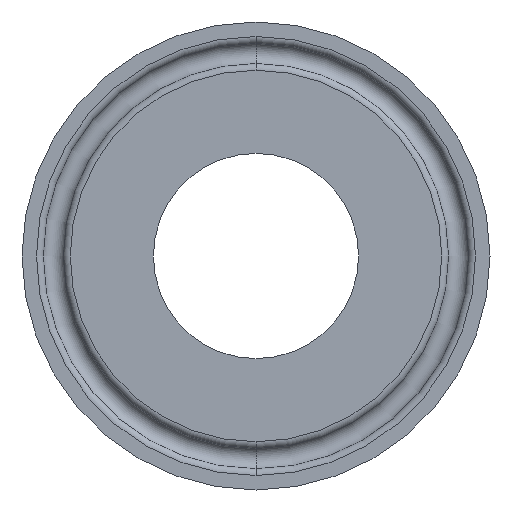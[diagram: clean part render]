
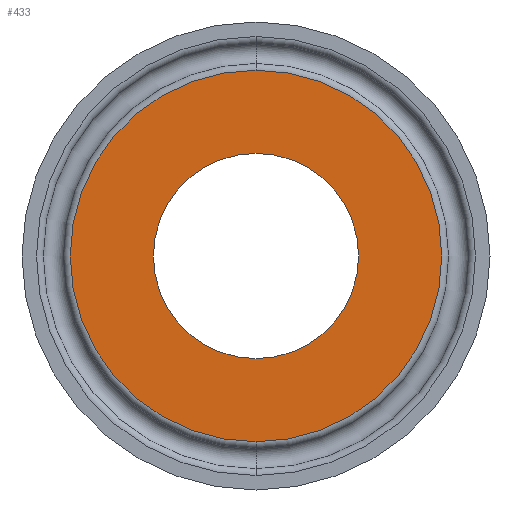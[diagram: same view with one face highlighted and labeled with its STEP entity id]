
A CAD part, front view. The second image highlights one B-rep face of the part: STEP entity #433.
In plain terms, the highlighted planar face has unit normal (0, -1, 0).
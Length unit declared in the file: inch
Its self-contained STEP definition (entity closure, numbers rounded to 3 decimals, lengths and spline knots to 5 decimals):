
#21 = EDGE_LOOP ( 'NONE', ( #232, #183 ) ) ;
#46 = ORIENTED_EDGE ( 'NONE', *, *, #515, .T. ) ;
#90 = FACE_OUTER_BOUND ( 'NONE', #405, .T. ) ;
#97 = DIRECTION ( 'NONE',  ( 0., -1., 0. ) ) ;
#113 = CIRCLE ( 'NONE', #412, 0.435 ) ;
#130 = DIRECTION ( 'NONE',  ( 0., -1., 0. ) ) ;
#157 = DIRECTION ( 'NONE',  ( 0., -1., 0. ) ) ;
#168 = CARTESIAN_POINT ( 'NONE',  ( 0., 0., 0.435 ) ) ;
#183 = ORIENTED_EDGE ( 'NONE', *, *, #498, .F. ) ;
#196 = CARTESIAN_POINT ( 'NONE',  ( 0., 0., 0. ) ) ;
#228 = EDGE_CURVE ( 'NONE', #494, #242, #229, .T. ) ;
#229 = CIRCLE ( 'NONE', #403, 0.78742 ) ;
#230 = EDGE_CURVE ( 'NONE', #490, #524, #113, .T. ) ;
#232 = ORIENTED_EDGE ( 'NONE', *, *, #230, .F. ) ;
#237 = DIRECTION ( 'NONE',  ( 0., 1., 0. ) ) ;
#239 = DIRECTION ( 'NONE',  ( 0., 0., -1. ) ) ;
#242 = VERTEX_POINT ( 'NONE', #446 ) ;
#249 = AXIS2_PLACEMENT_3D ( 'NONE', #383, #130, #434 ) ;
#267 = AXIS2_PLACEMENT_3D ( 'NONE', #421, #157, #462 ) ;
#283 = CARTESIAN_POINT ( 'NONE',  ( 0., 0., 0.78742 ) ) ;
#315 = AXIS2_PLACEMENT_3D ( 'NONE', #486, #237, #538 ) ;
#338 = CARTESIAN_POINT ( 'NONE',  ( 0., 0., -0.435 ) ) ;
#370 = CIRCLE ( 'NONE', #249, 0.78742 ) ;
#383 = CARTESIAN_POINT ( 'NONE',  ( 0., 0., 0. ) ) ;
#402 = DIRECTION ( 'NONE',  ( 0., 0., -1. ) ) ;
#403 = AXIS2_PLACEMENT_3D ( 'NONE', #533, #97, #402 ) ;
#405 = EDGE_LOOP ( 'NONE', ( #46, #409 ) ) ;
#409 = ORIENTED_EDGE ( 'NONE', *, *, #228, .T. ) ;
#412 = AXIS2_PLACEMENT_3D ( 'NONE', #196, #487, #239 ) ;
#421 = CARTESIAN_POINT ( 'NONE',  ( 0., 0., 0. ) ) ;
#433 = ADVANCED_FACE ( 'NONE', ( #443, #90 ), #449, .F. ) ;
#434 = DIRECTION ( 'NONE',  ( 0., 0., -1. ) ) ;
#443 = FACE_BOUND ( 'NONE', #21, .T. ) ;
#446 = CARTESIAN_POINT ( 'NONE',  ( 0., 0., -0.78742 ) ) ;
#449 = PLANE ( 'NONE',  #315 ) ;
#462 = DIRECTION ( 'NONE',  ( 0., 0., -1. ) ) ;
#484 = CIRCLE ( 'NONE', #267, 0.435 ) ;
#486 = CARTESIAN_POINT ( 'NONE',  ( 0., 0., 0. ) ) ;
#487 = DIRECTION ( 'NONE',  ( 0., -1., 0. ) ) ;
#490 = VERTEX_POINT ( 'NONE', #338 ) ;
#494 = VERTEX_POINT ( 'NONE', #283 ) ;
#498 = EDGE_CURVE ( 'NONE', #524, #490, #484, .T. ) ;
#515 = EDGE_CURVE ( 'NONE', #242, #494, #370, .T. ) ;
#524 = VERTEX_POINT ( 'NONE', #168 ) ;
#533 = CARTESIAN_POINT ( 'NONE',  ( 0., 0., 0. ) ) ;
#538 = DIRECTION ( 'NONE',  ( 0., 0., 1. ) ) ;
